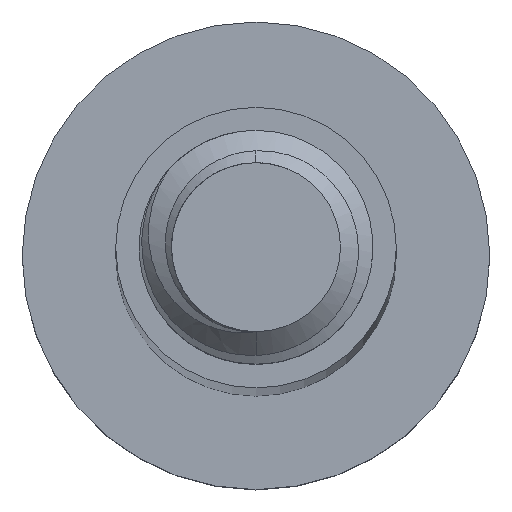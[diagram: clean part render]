
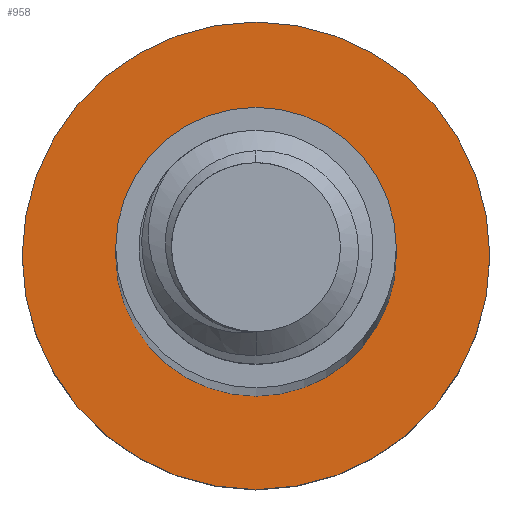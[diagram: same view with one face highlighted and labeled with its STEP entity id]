
A CAD part, top view. The second image highlights one B-rep face of the part: STEP entity #958.
In plain terms, the highlighted planar face has unit normal (0, 0, 1).
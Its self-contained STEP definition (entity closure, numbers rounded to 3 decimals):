
#36 = PLANE ( 'NONE',  #1397 ) ;
#97 = CARTESIAN_POINT ( 'NONE',  ( 0., 0., -100. ) ) ;
#231 = CIRCLE ( 'NONE', #1940, 3. ) ;
#261 = DIRECTION ( 'NONE',  ( 0., 0., -1. ) ) ;
#318 = VERTEX_POINT ( 'NONE', #1415 ) ;
#349 = ORIENTED_EDGE ( 'NONE', *, *, #1477, .F. ) ;
#507 = EDGE_LOOP ( 'NONE', ( #349, #1579 ) ) ;
#513 = CARTESIAN_POINT ( 'NONE',  ( 0., 0., -100. ) ) ;
#567 = FACE_OUTER_BOUND ( 'NONE', #507, .T. ) ;
#615 = CIRCLE ( 'NONE', #1238, 5. ) ;
#697 = CIRCLE ( 'NONE', #1858, 3. ) ;
#699 = DIRECTION ( 'NONE',  ( 0., 0., -1. ) ) ;
#701 = VERTEX_POINT ( 'NONE', #930 ) ;
#737 = VERTEX_POINT ( 'NONE', #1086 ) ;
#786 = DIRECTION ( 'NONE',  ( -1., 0., 0. ) ) ;
#809 = AXIS2_PLACEMENT_3D ( 'NONE', #513, #699, #1049 ) ;
#930 = CARTESIAN_POINT ( 'NONE',  ( 3., 0., -100. ) ) ;
#958 = ADVANCED_FACE ( 'NONE', ( #1497, #567 ), #36, .F. ) ;
#992 = VERTEX_POINT ( 'NONE', #2223 ) ;
#1007 = ORIENTED_EDGE ( 'NONE', *, *, #1569, .T. ) ;
#1049 = DIRECTION ( 'NONE',  ( -1., 0., 0. ) ) ;
#1081 = DIRECTION ( 'NONE',  ( 0., 0., -1. ) ) ;
#1086 = CARTESIAN_POINT ( 'NONE',  ( 5., 0., -100. ) ) ;
#1238 = AXIS2_PLACEMENT_3D ( 'NONE', #97, #261, #1529 ) ;
#1287 = DIRECTION ( 'NONE',  ( -1., 0., 0. ) ) ;
#1302 = CARTESIAN_POINT ( 'NONE',  ( 0., 0., -100. ) ) ;
#1397 = AXIS2_PLACEMENT_3D ( 'NONE', #1302, #1458, #2201 ) ;
#1415 = CARTESIAN_POINT ( 'NONE',  ( -5., 0., -100. ) ) ;
#1458 = DIRECTION ( 'NONE',  ( 0., 0., -1. ) ) ;
#1477 = EDGE_CURVE ( 'NONE', #737, #318, #2009, .T. ) ;
#1497 = FACE_BOUND ( 'NONE', #2349, .T. ) ;
#1529 = DIRECTION ( 'NONE',  ( -1., 0., 0. ) ) ;
#1569 = EDGE_CURVE ( 'NONE', #992, #701, #697, .T. ) ;
#1579 = ORIENTED_EDGE ( 'NONE', *, *, #1972, .F. ) ;
#1646 = ORIENTED_EDGE ( 'NONE', *, *, #1928, .T. ) ;
#1858 = AXIS2_PLACEMENT_3D ( 'NONE', #2196, #1081, #1287 ) ;
#1928 = EDGE_CURVE ( 'NONE', #701, #992, #231, .T. ) ;
#1940 = AXIS2_PLACEMENT_3D ( 'NONE', #2119, #2092, #786 ) ;
#1972 = EDGE_CURVE ( 'NONE', #318, #737, #615, .T. ) ;
#2009 = CIRCLE ( 'NONE', #809, 5. ) ;
#2092 = DIRECTION ( 'NONE',  ( 0., 0., -1. ) ) ;
#2119 = CARTESIAN_POINT ( 'NONE',  ( 0., 0., -100. ) ) ;
#2196 = CARTESIAN_POINT ( 'NONE',  ( 0., 0., -100. ) ) ;
#2201 = DIRECTION ( 'NONE',  ( -1., 0., 0. ) ) ;
#2223 = CARTESIAN_POINT ( 'NONE',  ( -3., 0., -100. ) ) ;
#2349 = EDGE_LOOP ( 'NONE', ( #1007, #1646 ) ) ;
